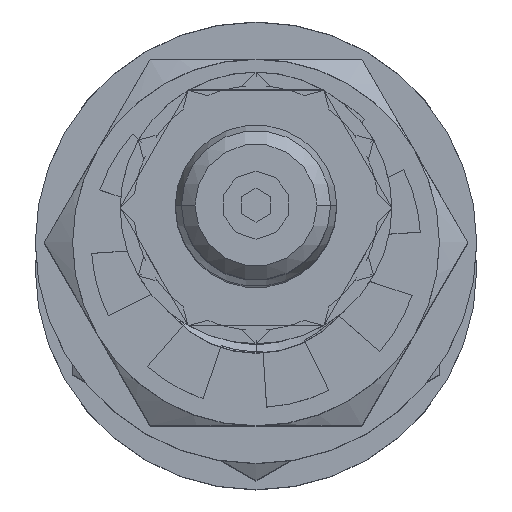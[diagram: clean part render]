
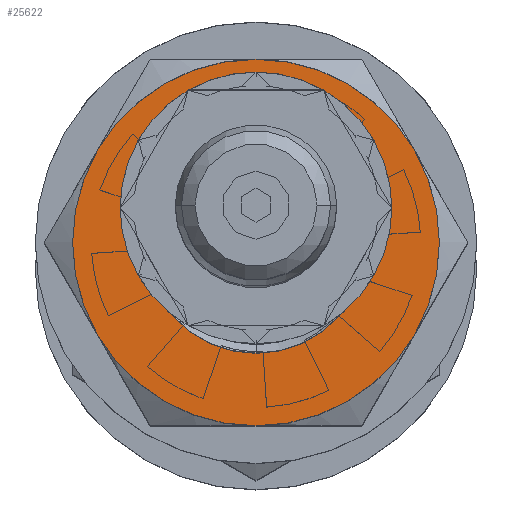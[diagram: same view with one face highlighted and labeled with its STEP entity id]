
A CAD part, top view. The second image highlights one B-rep face of the part: STEP entity #25622.
In plain terms, the highlighted planar face has unit normal (0, 0, 1).
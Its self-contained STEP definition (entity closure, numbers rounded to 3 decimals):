
#971 = VERTEX_POINT ( 'NONE', #27942 ) ;
#1220 = DIRECTION ( 'NONE',  ( 0., 0., -1. ) ) ;
#1435 = CARTESIAN_POINT ( 'NONE',  ( -6.475, 12.46, 295.6 ) ) ;
#2106 = CARTESIAN_POINT ( 'NONE',  ( -8.814, 11.11, 295.6 ) ) ;
#2525 = CIRCLE ( 'NONE', #3260, 1.63 ) ;
#2802 = EDGE_CURVE ( 'NONE', #5267, #8284, #15560, .T. ) ;
#2998 = VERTEX_POINT ( 'NONE', #7762 ) ;
#3021 = DIRECTION ( 'NONE',  ( 0., 1., 0. ) ) ;
#3260 = AXIS2_PLACEMENT_3D ( 'NONE', #13489, #22637, #6550 ) ;
#3558 = CIRCLE ( 'NONE', #4655, 2.7 ) ;
#3870 = EDGE_CURVE ( 'NONE', #26595, #24437, #17041, .T. ) ;
#4655 = AXIS2_PLACEMENT_3D ( 'NONE', #28078, #12170, #25847 ) ;
#4725 = CARTESIAN_POINT ( 'NONE',  ( -8.814, 11.11, 295.6 ) ) ;
#4842 = AXIS2_PLACEMENT_3D ( 'NONE', #27831, #18717, #14154 ) ;
#5267 = VERTEX_POINT ( 'NONE', #23963 ) ;
#5577 = CARTESIAN_POINT ( 'NONE',  ( -8.814, 11.11, 295.6 ) ) ;
#5599 = EDGE_LOOP ( 'NONE', ( #7656, #25851, #26543, #20551, #22849, #6212 ) ) ;
#6212 = ORIENTED_EDGE ( 'NONE', *, *, #10157, .F. ) ;
#6550 = DIRECTION ( 'NONE',  ( 0., 1., 0. ) ) ;
#7004 = DIRECTION ( 'NONE',  ( 0., 1., 0. ) ) ;
#7530 = EDGE_CURVE ( 'NONE', #8284, #971, #14014, .T. ) ;
#7656 = ORIENTED_EDGE ( 'NONE', *, *, #23911, .F. ) ;
#7762 = CARTESIAN_POINT ( 'NONE',  ( -8.814, 12.74, 295.6 ) ) ;
#8284 = VERTEX_POINT ( 'NONE', #13073 ) ;
#8878 = AXIS2_PLACEMENT_3D ( 'NONE', #2106, #18270, #13908 ) ;
#9103 = ORIENTED_EDGE ( 'NONE', *, *, #17119, .T. ) ;
#9476 = CIRCLE ( 'NONE', #17566, 2.7 ) ;
#10157 = EDGE_CURVE ( 'NONE', #11458, #5267, #22610, .T. ) ;
#10496 = DIRECTION ( 'NONE',  ( 0., 1., 0. ) ) ;
#11458 = VERTEX_POINT ( 'NONE', #1435 ) ;
#11497 = CIRCLE ( 'NONE', #4842, 1.63 ) ;
#12170 = DIRECTION ( 'NONE',  ( 0., 0., -1. ) ) ;
#12196 = CARTESIAN_POINT ( 'NONE',  ( -8.814, 11.11, 295.6 ) ) ;
#13073 = CARTESIAN_POINT ( 'NONE',  ( -8.814, 8.41, 295.6 ) ) ;
#13489 = CARTESIAN_POINT ( 'NONE',  ( -8.814, 11.11, 295.6 ) ) ;
#13790 = DIRECTION ( 'NONE',  ( 0., 1., 0. ) ) ;
#13805 = FACE_BOUND ( 'NONE', #15387, .T. ) ;
#13908 = DIRECTION ( 'NONE',  ( 0., 1., 0. ) ) ;
#14014 = CIRCLE ( 'NONE', #26334, 2.7 ) ;
#14154 = DIRECTION ( 'NONE',  ( 0., 1., 0. ) ) ;
#14212 = AXIS2_PLACEMENT_3D ( 'NONE', #20863, #25396, #7004 ) ;
#15387 = EDGE_LOOP ( 'NONE', ( #9103, #15525 ) ) ;
#15411 = DIRECTION ( 'NONE',  ( 0., 1., 0. ) ) ;
#15525 = ORIENTED_EDGE ( 'NONE', *, *, #17368, .T. ) ;
#15560 = CIRCLE ( 'NONE', #20223, 2.7 ) ;
#15588 = FACE_OUTER_BOUND ( 'NONE', #5599, .T. ) ;
#15806 = DIRECTION ( 'NONE',  ( 0., 0., -1. ) ) ;
#15834 = CARTESIAN_POINT ( 'NONE',  ( -8.814, 9.481, 295.6 ) ) ;
#16861 = DIRECTION ( 'NONE',  ( 0., 0., -1. ) ) ;
#17041 = CIRCLE ( 'NONE', #14212, 2.7 ) ;
#17119 = EDGE_CURVE ( 'NONE', #17937, #2998, #2525, .T. ) ;
#17368 = EDGE_CURVE ( 'NONE', #2998, #17937, #11497, .T. ) ;
#17566 = AXIS2_PLACEMENT_3D ( 'NONE', #5577, #1220, #10496 ) ;
#17937 = VERTEX_POINT ( 'NONE', #15834 ) ;
#18206 = EDGE_CURVE ( 'NONE', #971, #26595, #3558, .T. ) ;
#18270 = DIRECTION ( 'NONE',  ( 0., 0., -1. ) ) ;
#18717 = DIRECTION ( 'NONE',  ( 0., 0., -1. ) ) ;
#19472 = CARTESIAN_POINT ( 'NONE',  ( -8.814, 13.81, 295.6 ) ) ;
#20223 = AXIS2_PLACEMENT_3D ( 'NONE', #12196, #16861, #3021 ) ;
#20551 = ORIENTED_EDGE ( 'NONE', *, *, #7530, .F. ) ;
#20863 = CARTESIAN_POINT ( 'NONE',  ( -8.814, 11.11, 295.6 ) ) ;
#22610 = CIRCLE ( 'NONE', #29941, 2.7 ) ;
#22637 = DIRECTION ( 'NONE',  ( 0., 0., -1. ) ) ;
#22849 = ORIENTED_EDGE ( 'NONE', *, *, #2802, .F. ) ;
#23911 = EDGE_CURVE ( 'NONE', #24437, #11458, #9476, .T. ) ;
#23963 = CARTESIAN_POINT ( 'NONE',  ( -6.475, 9.76, 295.6 ) ) ;
#24437 = VERTEX_POINT ( 'NONE', #19472 ) ;
#25396 = DIRECTION ( 'NONE',  ( 0., 0., -1. ) ) ;
#25451 = PLANE ( 'NONE',  #8878 ) ;
#25622 = ADVANCED_FACE ( 'NONE', ( #13805, #15588 ), #25451, .F. ) ;
#25847 = DIRECTION ( 'NONE',  ( 0., 1., 0. ) ) ;
#25851 = ORIENTED_EDGE ( 'NONE', *, *, #3870, .F. ) ;
#26334 = AXIS2_PLACEMENT_3D ( 'NONE', #4725, #27672, #13790 ) ;
#26543 = ORIENTED_EDGE ( 'NONE', *, *, #18206, .F. ) ;
#26595 = VERTEX_POINT ( 'NONE', #29075 ) ;
#27345 = CARTESIAN_POINT ( 'NONE',  ( -8.814, 11.11, 295.6 ) ) ;
#27672 = DIRECTION ( 'NONE',  ( 0., 0., -1. ) ) ;
#27831 = CARTESIAN_POINT ( 'NONE',  ( -8.814, 11.11, 295.6 ) ) ;
#27942 = CARTESIAN_POINT ( 'NONE',  ( -11.152, 9.76, 295.6 ) ) ;
#28078 = CARTESIAN_POINT ( 'NONE',  ( -8.814, 11.11, 295.6 ) ) ;
#29075 = CARTESIAN_POINT ( 'NONE',  ( -11.152, 12.46, 295.6 ) ) ;
#29941 = AXIS2_PLACEMENT_3D ( 'NONE', #27345, #15806, #15411 ) ;
